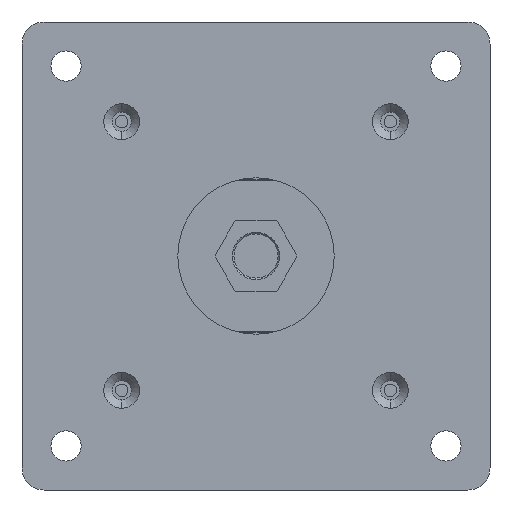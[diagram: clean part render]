
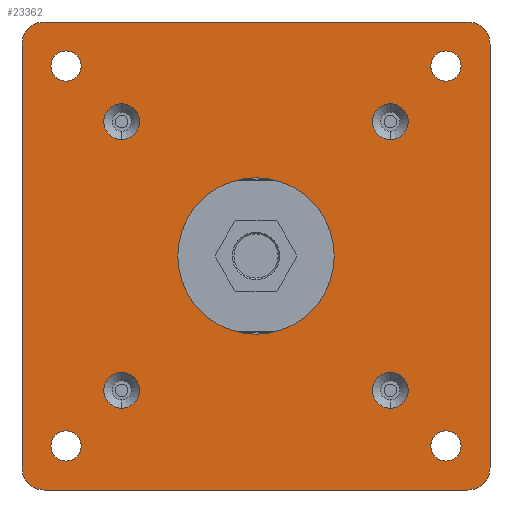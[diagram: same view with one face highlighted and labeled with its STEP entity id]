
A CAD part, front view. The second image highlights one B-rep face of the part: STEP entity #23362.
In plain terms, the highlighted planar face has unit normal (0, -1, 0) as drawn and (0, 0, 1) by its records, which use the part's own axes.
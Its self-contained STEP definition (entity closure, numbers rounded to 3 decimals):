
#22855=CARTESIAN_POINT('',(0.,0.,1.5));
#22856=DIRECTION('',(0.,0.,1.));
#22857=DIRECTION('',(1.,0.,0.));
#22858=AXIS2_PLACEMENT_3D('',#22855,#22856,#22857);
#22860=CARTESIAN_POINT('',(0.,0.,1.5));
#22861=DIRECTION('',(0.,0.,1.));
#22862=DIRECTION('',(-1.,0.,0.));
#22863=AXIS2_PLACEMENT_3D('',#22860,#22861,#22862);
#22865=CARTESIAN_POINT('',(34.5,34.5,1.5));
#22866=DIRECTION('',(0.,0.,-1.));
#22867=DIRECTION('',(0.,1.,0.));
#22868=AXIS2_PLACEMENT_3D('',#22865,#22866,#22867);
#22870=CARTESIAN_POINT('',(34.5,34.5,1.5));
#22871=DIRECTION('',(0.,0.,-1.));
#22872=DIRECTION('',(0.,-1.,0.));
#22873=AXIS2_PLACEMENT_3D('',#22870,#22871,#22872);
#22875=CARTESIAN_POINT('',(34.5,-34.5,1.5));
#22876=DIRECTION('',(0.,0.,-1.));
#22877=DIRECTION('',(0.,1.,0.));
#22878=AXIS2_PLACEMENT_3D('',#22875,#22876,#22877);
#22880=CARTESIAN_POINT('',(34.5,-34.5,1.5));
#22881=DIRECTION('',(0.,0.,-1.));
#22882=DIRECTION('',(0.,-1.,0.));
#22883=AXIS2_PLACEMENT_3D('',#22880,#22881,#22882);
#22885=CARTESIAN_POINT('',(-34.5,34.5,1.5));
#22886=DIRECTION('',(0.,0.,-1.));
#22887=DIRECTION('',(0.,1.,0.));
#22888=AXIS2_PLACEMENT_3D('',#22885,#22886,#22887);
#22890=CARTESIAN_POINT('',(-34.5,34.5,1.5));
#22891=DIRECTION('',(0.,0.,-1.));
#22892=DIRECTION('',(0.,-1.,0.));
#22893=AXIS2_PLACEMENT_3D('',#22890,#22891,#22892);
#22895=CARTESIAN_POINT('',(-34.5,-34.5,1.5));
#22896=DIRECTION('',(0.,0.,-1.));
#22897=DIRECTION('',(0.,1.,0.));
#22898=AXIS2_PLACEMENT_3D('',#22895,#22896,#22897);
#22900=CARTESIAN_POINT('',(-34.5,-34.5,1.5));
#22901=DIRECTION('',(0.,0.,-1.));
#22902=DIRECTION('',(0.,-1.,0.));
#22903=AXIS2_PLACEMENT_3D('',#22900,#22901,#22902);
#22905=CARTESIAN_POINT('',(38.5,38.5,1.5));
#22906=DIRECTION('',(0.,0.,1.));
#22907=DIRECTION('',(1.,0.,0.));
#22908=AXIS2_PLACEMENT_3D('',#22905,#22906,#22907);
#22910=DIRECTION('',(0.,1.,0.));
#22911=VECTOR('',#22910,77.);
#22912=CARTESIAN_POINT('',(42.5,-38.5,1.5));
#22913=LINE('',#22912,#22911);
#22914=CARTESIAN_POINT('',(38.5,-38.5,1.5));
#22915=DIRECTION('',(0.,0.,1.));
#22916=DIRECTION('',(0.,-1.,0.));
#22917=AXIS2_PLACEMENT_3D('',#22914,#22915,#22916);
#22919=DIRECTION('',(1.,0.,0.));
#22920=VECTOR('',#22919,77.);
#22921=CARTESIAN_POINT('',(-38.5,-42.5,1.5));
#22922=LINE('',#22921,#22920);
#22923=CARTESIAN_POINT('',(-38.5,-38.5,1.5));
#22924=DIRECTION('',(0.,0.,1.));
#22925=DIRECTION('',(-1.,0.,0.));
#22926=AXIS2_PLACEMENT_3D('',#22923,#22924,#22925);
#22928=DIRECTION('',(0.,-1.,0.));
#22929=VECTOR('',#22928,77.);
#22930=CARTESIAN_POINT('',(-42.5,38.5,1.5));
#22931=LINE('',#22930,#22929);
#22932=CARTESIAN_POINT('',(-38.5,38.5,1.5));
#22933=DIRECTION('',(0.,0.,1.));
#22934=DIRECTION('',(0.,1.,0.));
#22935=AXIS2_PLACEMENT_3D('',#22932,#22933,#22934);
#22937=DIRECTION('',(-1.,0.,0.));
#22938=VECTOR('',#22937,77.);
#22939=CARTESIAN_POINT('',(38.5,42.5,1.5));
#22940=LINE('',#22939,#22938);
#22941=CARTESIAN_POINT('',(-24.395,-24.395,1.5));
#22942=DIRECTION('',(0.,0.,-1.));
#22943=DIRECTION('',(0.,1.,0.));
#22944=AXIS2_PLACEMENT_3D('',#22941,#22942,#22943);
#22946=CARTESIAN_POINT('',(-24.395,-24.395,1.5));
#22947=DIRECTION('',(0.,0.,-1.));
#22948=DIRECTION('',(0.,-1.,0.));
#22949=AXIS2_PLACEMENT_3D('',#22946,#22947,#22948);
#22951=CARTESIAN_POINT('',(24.395,-24.395,1.5));
#22952=DIRECTION('',(0.,0.,-1.));
#22953=DIRECTION('',(0.,1.,0.));
#22954=AXIS2_PLACEMENT_3D('',#22951,#22952,#22953);
#22956=CARTESIAN_POINT('',(24.395,-24.395,1.5));
#22957=DIRECTION('',(0.,0.,-1.));
#22958=DIRECTION('',(0.,-1.,0.));
#22959=AXIS2_PLACEMENT_3D('',#22956,#22957,#22958);
#22961=CARTESIAN_POINT('',(24.395,24.395,1.5));
#22962=DIRECTION('',(0.,0.,-1.));
#22963=DIRECTION('',(0.,1.,0.));
#22964=AXIS2_PLACEMENT_3D('',#22961,#22962,#22963);
#22966=CARTESIAN_POINT('',(24.395,24.395,1.5));
#22967=DIRECTION('',(0.,0.,-1.));
#22968=DIRECTION('',(0.,-1.,0.));
#22969=AXIS2_PLACEMENT_3D('',#22966,#22967,#22968);
#22971=CARTESIAN_POINT('',(-24.395,24.395,1.5));
#22972=DIRECTION('',(0.,0.,-1.));
#22973=DIRECTION('',(0.,1.,0.));
#22974=AXIS2_PLACEMENT_3D('',#22971,#22972,#22973);
#22976=CARTESIAN_POINT('',(-24.395,24.395,1.5));
#22977=DIRECTION('',(0.,0.,-1.));
#22978=DIRECTION('',(0.,-1.,0.));
#22979=AXIS2_PLACEMENT_3D('',#22976,#22977,#22978);
#23081=CARTESIAN_POINT('',(14.2,0.,1.5));
#23082=CARTESIAN_POINT('',(-14.2,0.,1.5));
#23083=VERTEX_POINT('',#23081);
#23084=VERTEX_POINT('',#23082);
#23101=CARTESIAN_POINT('',(34.5,37.25,1.5));
#23102=CARTESIAN_POINT('',(34.5,31.75,1.5));
#23103=VERTEX_POINT('',#23101);
#23104=VERTEX_POINT('',#23102);
#23105=CARTESIAN_POINT('',(34.5,-31.75,1.5));
#23106=CARTESIAN_POINT('',(34.5,-37.25,1.5));
#23107=VERTEX_POINT('',#23105);
#23108=VERTEX_POINT('',#23106);
#23109=CARTESIAN_POINT('',(-34.5,37.25,1.5));
#23110=CARTESIAN_POINT('',(-34.5,31.75,1.5));
#23111=VERTEX_POINT('',#23109);
#23112=VERTEX_POINT('',#23110);
#23113=CARTESIAN_POINT('',(-34.5,-31.75,1.5));
#23114=CARTESIAN_POINT('',(-34.5,-37.25,1.5));
#23115=VERTEX_POINT('',#23113);
#23116=VERTEX_POINT('',#23114);
#23121=CARTESIAN_POINT('',(42.5,38.5,1.5));
#23122=VERTEX_POINT('',#23121);
#23123=CARTESIAN_POINT('',(38.5,42.5,1.5));
#23124=VERTEX_POINT('',#23123);
#23129=CARTESIAN_POINT('',(38.5,-42.5,1.5));
#23130=VERTEX_POINT('',#23129);
#23131=CARTESIAN_POINT('',(42.5,-38.5,1.5));
#23132=VERTEX_POINT('',#23131);
#23137=CARTESIAN_POINT('',(-42.5,-38.5,1.5));
#23138=VERTEX_POINT('',#23137);
#23139=CARTESIAN_POINT('',(-38.5,-42.5,1.5));
#23140=VERTEX_POINT('',#23139);
#23145=CARTESIAN_POINT('',(-38.5,42.5,1.5));
#23146=VERTEX_POINT('',#23145);
#23147=CARTESIAN_POINT('',(-42.5,38.5,1.5));
#23148=VERTEX_POINT('',#23147);
#23149=CARTESIAN_POINT('',(-24.395,-21.145,1.5));
#23150=CARTESIAN_POINT('',(-24.395,-27.645,1.5));
#23151=VERTEX_POINT('',#23149);
#23152=VERTEX_POINT('',#23150);
#23157=CARTESIAN_POINT('',(24.395,-21.145,1.5));
#23158=CARTESIAN_POINT('',(24.395,-27.645,1.5));
#23159=VERTEX_POINT('',#23157);
#23160=VERTEX_POINT('',#23158);
#23165=CARTESIAN_POINT('',(24.395,27.645,1.5));
#23166=CARTESIAN_POINT('',(24.395,21.145,1.5));
#23167=VERTEX_POINT('',#23165);
#23168=VERTEX_POINT('',#23166);
#23173=CARTESIAN_POINT('',(-24.395,27.645,1.5));
#23174=CARTESIAN_POINT('',(-24.395,21.145,1.5));
#23175=VERTEX_POINT('',#23173);
#23176=VERTEX_POINT('',#23174);
#23287=CARTESIAN_POINT('',(0.,0.,1.5));
#23288=DIRECTION('',(0.,0.,1.));
#23289=DIRECTION('',(1.,0.,0.));
#23290=AXIS2_PLACEMENT_3D('',#23287,#23288,#23289);
#23291=PLANE('',#23290);
#23293=ORIENTED_EDGE('',*,*,#23292,.F.);
#23295=ORIENTED_EDGE('',*,*,#23294,.F.);
#23297=ORIENTED_EDGE('',*,*,#23296,.F.);
#23299=ORIENTED_EDGE('',*,*,#23298,.F.);
#23301=ORIENTED_EDGE('',*,*,#23300,.F.);
#23303=ORIENTED_EDGE('',*,*,#23302,.F.);
#23305=ORIENTED_EDGE('',*,*,#23304,.F.);
#23307=ORIENTED_EDGE('',*,*,#23306,.F.);
#23308=EDGE_LOOP('',(#23293,#23295,#23297,#23299,#23301,#23303,#23305,#23307));
#23309=FACE_OUTER_BOUND('',#23308,.F.);
#23311=ORIENTED_EDGE('',*,*,#23310,.F.);
#23313=ORIENTED_EDGE('',*,*,#23312,.F.);
#23314=EDGE_LOOP('',(#23311,#23313));
#23315=FACE_BOUND('',#23314,.F.);
#23317=ORIENTED_EDGE('',*,*,#23316,.F.);
#23319=ORIENTED_EDGE('',*,*,#23318,.F.);
#23320=EDGE_LOOP('',(#23317,#23319));
#23321=FACE_BOUND('',#23320,.F.);
#23323=ORIENTED_EDGE('',*,*,#23322,.F.);
#23325=ORIENTED_EDGE('',*,*,#23324,.F.);
#23326=EDGE_LOOP('',(#23323,#23325));
#23327=FACE_BOUND('',#23326,.F.);
#23329=ORIENTED_EDGE('',*,*,#23328,.F.);
#23331=ORIENTED_EDGE('',*,*,#23330,.F.);
#23332=EDGE_LOOP('',(#23329,#23331));
#23333=FACE_BOUND('',#23332,.F.);
#23334=ORIENTED_EDGE('',*,*,#23267,.T.);
#23335=ORIENTED_EDGE('',*,*,#23281,.T.);
#23336=EDGE_LOOP('',(#23334,#23335));
#23337=FACE_BOUND('',#23336,.F.);
#23339=ORIENTED_EDGE('',*,*,#23338,.F.);
#23341=ORIENTED_EDGE('',*,*,#23340,.F.);
#23342=EDGE_LOOP('',(#23339,#23341));
#23343=FACE_BOUND('',#23342,.F.);
#23345=ORIENTED_EDGE('',*,*,#23344,.F.);
#23347=ORIENTED_EDGE('',*,*,#23346,.F.);
#23348=EDGE_LOOP('',(#23345,#23347));
#23349=FACE_BOUND('',#23348,.F.);
#23351=ORIENTED_EDGE('',*,*,#23350,.F.);
#23353=ORIENTED_EDGE('',*,*,#23352,.F.);
#23354=EDGE_LOOP('',(#23351,#23353));
#23355=FACE_BOUND('',#23354,.F.);
#23357=ORIENTED_EDGE('',*,*,#23356,.F.);
#23359=ORIENTED_EDGE('',*,*,#23358,.F.);
#23360=EDGE_LOOP('',(#23357,#23359));
#23361=FACE_BOUND('',#23360,.F.);
#23362=ADVANCED_FACE('',(#23309,#23315,#23321,#23327,#23333,#23337,#23343,
#23349,#23355,#23361),#23291,.T.);
#22859=CIRCLE('',#22858,14.2);
#22864=CIRCLE('',#22863,14.2);
#22869=CIRCLE('',#22868,2.75);
#22874=CIRCLE('',#22873,2.75);
#22879=CIRCLE('',#22878,2.75);
#22884=CIRCLE('',#22883,2.75);
#22889=CIRCLE('',#22888,2.75);
#22894=CIRCLE('',#22893,2.75);
#22899=CIRCLE('',#22898,2.75);
#22904=CIRCLE('',#22903,2.75);
#22909=CIRCLE('',#22908,4.);
#22918=CIRCLE('',#22917,4.);
#22927=CIRCLE('',#22926,4.);
#22936=CIRCLE('',#22935,4.);
#22945=CIRCLE('',#22944,3.25);
#22950=CIRCLE('',#22949,3.25);
#22955=CIRCLE('',#22954,3.25);
#22960=CIRCLE('',#22959,3.25);
#22965=CIRCLE('',#22964,3.25);
#22970=CIRCLE('',#22969,3.25);
#22975=CIRCLE('',#22974,3.25);
#22980=CIRCLE('',#22979,3.25);
#23267=EDGE_CURVE('',#23083,#23084,#22859,.T.);
#23281=EDGE_CURVE('',#23084,#23083,#22864,.T.);
#23292=EDGE_CURVE('',#23122,#23124,#22909,.T.);
#23294=EDGE_CURVE('',#23132,#23122,#22913,.T.);
#23296=EDGE_CURVE('',#23130,#23132,#22918,.T.);
#23298=EDGE_CURVE('',#23140,#23130,#22922,.T.);
#23300=EDGE_CURVE('',#23138,#23140,#22927,.T.);
#23302=EDGE_CURVE('',#23148,#23138,#22931,.T.);
#23304=EDGE_CURVE('',#23146,#23148,#22936,.T.);
#23306=EDGE_CURVE('',#23124,#23146,#22940,.T.);
#23310=EDGE_CURVE('',#23103,#23104,#22869,.T.);
#23312=EDGE_CURVE('',#23104,#23103,#22874,.T.);
#23316=EDGE_CURVE('',#23107,#23108,#22879,.T.);
#23318=EDGE_CURVE('',#23108,#23107,#22884,.T.);
#23322=EDGE_CURVE('',#23111,#23112,#22889,.T.);
#23324=EDGE_CURVE('',#23112,#23111,#22894,.T.);
#23328=EDGE_CURVE('',#23115,#23116,#22899,.T.);
#23330=EDGE_CURVE('',#23116,#23115,#22904,.T.);
#23338=EDGE_CURVE('',#23151,#23152,#22945,.T.);
#23340=EDGE_CURVE('',#23152,#23151,#22950,.T.);
#23344=EDGE_CURVE('',#23159,#23160,#22955,.T.);
#23346=EDGE_CURVE('',#23160,#23159,#22960,.T.);
#23350=EDGE_CURVE('',#23167,#23168,#22965,.T.);
#23352=EDGE_CURVE('',#23168,#23167,#22970,.T.);
#23356=EDGE_CURVE('',#23175,#23176,#22975,.T.);
#23358=EDGE_CURVE('',#23176,#23175,#22980,.T.);
